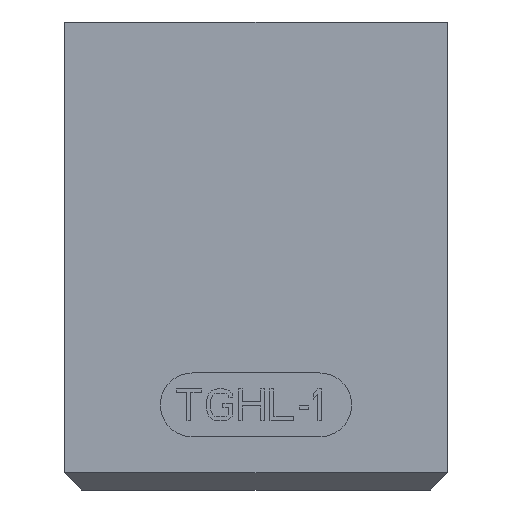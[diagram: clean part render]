
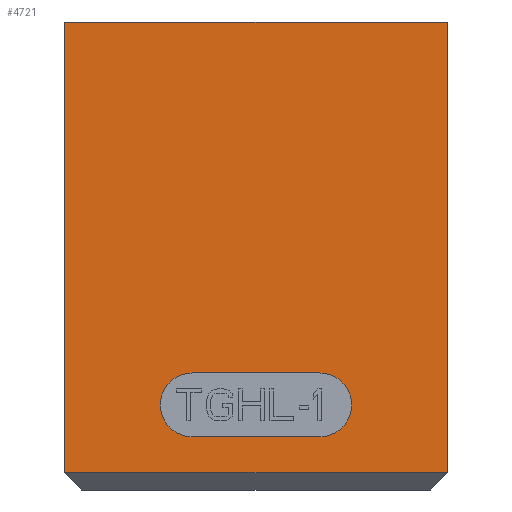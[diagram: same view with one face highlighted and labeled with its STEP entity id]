
A CAD part, front view. The second image highlights one B-rep face of the part: STEP entity #4721.
In plain terms, the highlighted planar face has unit normal (0, -1, 0).
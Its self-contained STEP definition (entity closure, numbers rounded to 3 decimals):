
#362=DIRECTION('',(1.,0.,0.));
#363=VECTOR('',#362,18.);
#364=CARTESIAN_POINT('',(-2.3,-4.,2.));
#365=LINE('',#364,#363);
#427=DIRECTION('',(0.,0.,1.));
#428=VECTOR('',#427,21.2);
#429=CARTESIAN_POINT('',(15.7,-4.,-19.2));
#430=LINE('',#429,#428);
#558=DIRECTION('',(-1.,0.,0.));
#559=VECTOR('',#558,18.);
#560=CARTESIAN_POINT('',(15.7,-4.,-19.2));
#561=LINE('',#560,#559);
#565=DIRECTION('',(0.,0.,1.));
#566=VECTOR('',#565,21.2);
#567=CARTESIAN_POINT('',(-2.3,-4.,-19.2));
#568=LINE('',#567,#566);
#572=CARTESIAN_POINT('',(3.7,-4.,-16.));
#573=DIRECTION('',(0.,-1.,0.));
#574=DIRECTION('',(0.,0.,1.));
#575=AXIS2_PLACEMENT_3D('',#572,#573,#574);
#580=DIRECTION('',(1.,0.,0.));
#581=VECTOR('',#580,6.);
#582=CARTESIAN_POINT('',(3.7,-4.,-17.5));
#583=LINE('',#582,#581);
#587=CARTESIAN_POINT('',(9.7,-4.,-16.));
#588=DIRECTION('',(0.,-1.,0.));
#589=DIRECTION('',(0.,0.,-1.));
#590=AXIS2_PLACEMENT_3D('',#587,#588,#589);
#595=DIRECTION('',(-1.,0.,0.));
#596=VECTOR('',#595,6.);
#597=CARTESIAN_POINT('',(9.7,-4.,-14.5));
#598=LINE('',#597,#596);
#3512=CARTESIAN_POINT('',(-2.3,-4.,2.));
#3514=VERTEX_POINT('',#3512);
#3515=CARTESIAN_POINT('',(15.7,-4.,2.));
#3516=VERTEX_POINT('',#3515);
#3547=CARTESIAN_POINT('',(-2.3,-4.,-19.2));
#3548=VERTEX_POINT('',#3547);
#3553=CARTESIAN_POINT('',(15.7,-4.,-19.2));
#3554=VERTEX_POINT('',#3553);
#3585=CARTESIAN_POINT('',(3.7,-4.,-14.5));
#3586=CARTESIAN_POINT('',(3.7,-4.,-17.5));
#3587=VERTEX_POINT('',#3585);
#3588=VERTEX_POINT('',#3586);
#3589=CARTESIAN_POINT('',(9.7,-4.,-17.5));
#3590=VERTEX_POINT('',#3589);
#3591=CARTESIAN_POINT('',(9.7,-4.,-14.5));
#3592=VERTEX_POINT('',#3591);
#4700=CARTESIAN_POINT('',(-2.3,-4.,-20.));
#4701=DIRECTION('',(0.,-1.,0.));
#4702=DIRECTION('',(1.,0.,0.));
#4703=AXIS2_PLACEMENT_3D('',#4700,#4701,#4702);
#4704=PLANE('',#4703);
#4705=ORIENTED_EDGE('',*,*,#4694,.T.);
#4706=ORIENTED_EDGE('',*,*,#4669,.T.);
#4707=ORIENTED_EDGE('',*,*,#4559,.T.);
#4708=ORIENTED_EDGE('',*,*,#4581,.F.);
#4709=EDGE_LOOP('',(#4705,#4706,#4707,#4708));
#4710=FACE_OUTER_BOUND('',#4709,.F.);
#4712=ORIENTED_EDGE('',*,*,#4711,.T.);
#4714=ORIENTED_EDGE('',*,*,#4713,.T.);
#4716=ORIENTED_EDGE('',*,*,#4715,.T.);
#4718=ORIENTED_EDGE('',*,*,#4717,.T.);
#4719=EDGE_LOOP('',(#4712,#4714,#4716,#4718));
#4720=FACE_BOUND('',#4719,.F.);
#576=CIRCLE('',#575,1.5);
#591=CIRCLE('',#590,1.5);
#4559=EDGE_CURVE('',#3514,#3516,#365,.T.);
#4581=EDGE_CURVE('',#3554,#3516,#430,.T.);
#4669=EDGE_CURVE('',#3548,#3514,#568,.T.);
#4694=EDGE_CURVE('',#3554,#3548,#561,.T.);
#4711=EDGE_CURVE('',#3587,#3588,#576,.T.);
#4713=EDGE_CURVE('',#3588,#3590,#583,.T.);
#4715=EDGE_CURVE('',#3590,#3592,#591,.T.);
#4717=EDGE_CURVE('',#3592,#3587,#598,.T.);
#4721=ADVANCED_FACE('',(#4710,#4720),#4704,.T.);
